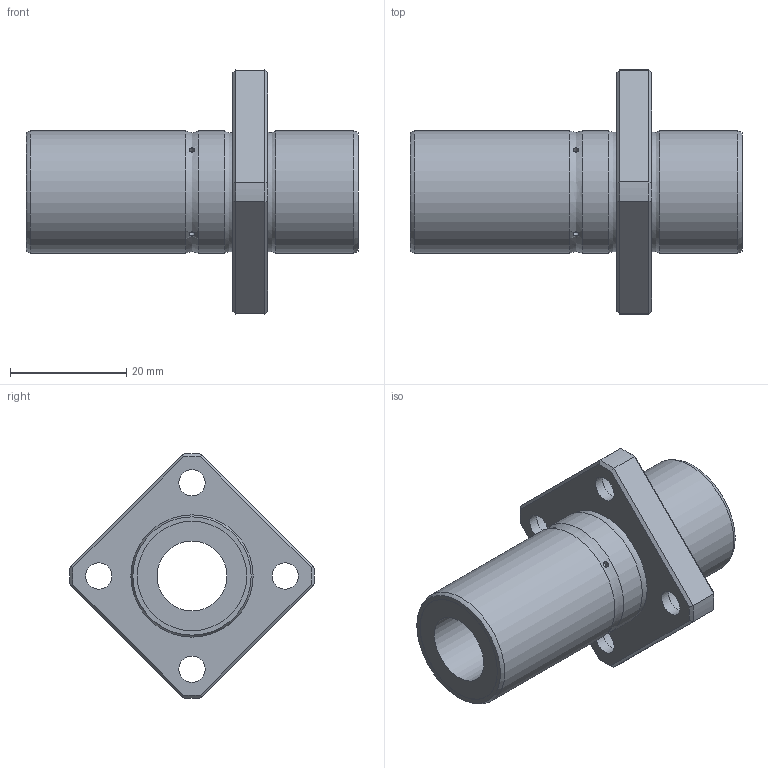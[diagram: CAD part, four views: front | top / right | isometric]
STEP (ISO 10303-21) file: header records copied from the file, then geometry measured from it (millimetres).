
FILE_DESCRIPTION((''),'2;1');
FILE_NAME('D:\製品 (図面)\カタログ用3D\リニアベアリング関連\STEP形式\LFDK-OH\LFDK12-OH.stp','2010-06-03T09:40:36',('Tsuchiya'),(''),'Autodesk Inventor 10','Autodesk Inventor 10','');
FILE_SCHEMA(('AUTOMOTIVE_DESIGN { 1 0 10303 214 1 1 1 1 }'));
Length unit declared in the file: millimetre
Products named in the file (1): LFDK12-OH
Bounding box: 57 x 41.98 x 41.98 mm (x, y, z)
Volume: 16174.1 mm3; surface area: 8393.7 mm2
Topology: 1 solids, 1 shells, 61 faces, 123 edges, 76 vertices
Faces by surface type: bspline 19, plane 18, cylinder 14, cone 8, torus 2
Full cylindrical faces by diameter (mm): 12 x1, 18.8 x2, 21 x3
Entity records: 2113 total; most frequent: CARTESIAN_POINT 990, DIRECTION 206, ORIENTED_EDGE 192, EDGE_LOOP 106, EDGE_CURVE 96, AXIS2_PLACEMENT_3D 91, VERTEX_POINT 72, FACE_OUTER_BOUND 61
